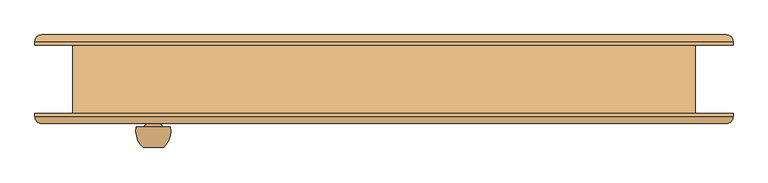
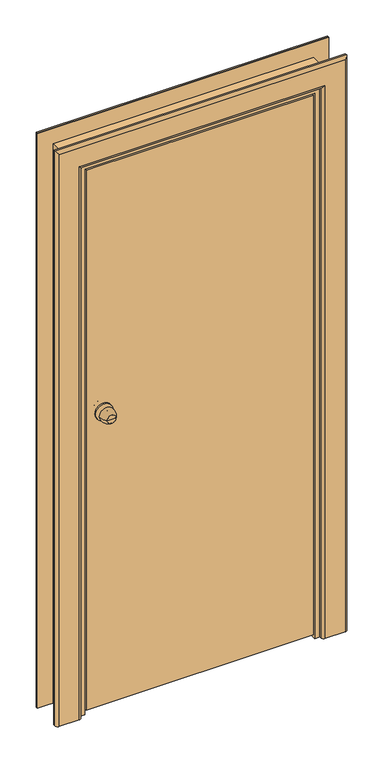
"""IFC4 building model written with IfcOpenShell, lengths in millimetres: door geometry, Внутренняя дверь 1-Навесная - 6629-88 : ДГ 21-9  ГОСТ 6629-88."""

from ifc_helpers import new_model, si_unit, point, frame, origin, place, context, project, spatial, polyline, circle_curve, ellipse_curve, trimmed, outline, extrude, faceted_brep, source, transform, mapped, element, save
from ifc_brep_helpers import plane_surface, cylinder_surface, revolved_surface, advanced_brep


def door_8e71c86a(model_context):
    return source(origin(), model_context, "Body", "SolidModel", [
        advanced_brep(
        [(-322.0, -100.0, 1100.0), (-352.0, -100.0, 1100.0), (-337.0, -100.0, 1100.0), (-312.0, -70.0, 1100.0), (-362.0, -70.0, 1100.0), (-319.0, -70.0, 1100.0), (-355.0, -70.0, 1100.0), (-327.0, -62.0, 1100.0), (-347.0, -62.0, 1100.0), (-327.0, -56.0, 1100.0), (-347.0, -56.0, 1100.0), (-367.0, -56.0, 1100.0), (-307.0, -56.0, 1100.0), (-367.0, -50.0, 1100.0), (-307.0, -50.0, 1100.0)],
        [
            (0, 1, circle_curve(frame((-337.0, -100.0, 1100.0), z_axis=(0.0, -1.0, 0.0), x_axis=(-1.0, 0.0, 0.0)), 15.0)),
            (1, 2),
            (2, 0),
            (1, 0, circle_curve(frame((-337.0, -100.0, 1100.0), z_axis=(0.0, -1.0, 0.0), x_axis=(-1.0, 0.0, 0.0)), 15.0)),
            (0, 3, circle_curve(frame((-346.6226265, -75.1257912, 1100.0), z_axis=(0.0, 0.0, 1.0), x_axis=(-1.0, 0.0, 0.0)), 35.0)),
            (3, 4, circle_curve(frame((-337.0, -70.0, 1100.0), z_axis=(0.0, -1.0, 0.0), x_axis=(-1.0, 0.0, 0.0)), 25.0)),
            (4, 1, circle_curve(frame((-327.3773735, -75.1257912, 1100.0), z_axis=(0.0, 0.0, 1.0), x_axis=(1.0, 0.0, 0.0)), 35.0)),
            (4, 3, circle_curve(frame((-337.0, -70.0, 1100.0), z_axis=(0.0, -1.0, 0.0), x_axis=(-1.0, 0.0, 0.0)), 25.0)),
            (3, 5),
            (5, 6, circle_curve(frame((-337.0, -70.0, 1100.0), z_axis=(0.0, -1.0, 0.0), x_axis=(-1.0, 0.0, 0.0)), 18.0)),
            (6, 4),
            (6, 5, circle_curve(frame((-337.0, -70.0, 1100.0), z_axis=(0.0, -1.0, 0.0), x_axis=(-1.0, 0.0, 0.0)), 18.0)),
            (5, 7, circle_curve(frame((-319.0, -62.0, 1100.0), z_axis=(0.0, 0.0, -1.0), x_axis=(-1.0, 0.0, 0.0)), 8.0)),
            (7, 8, circle_curve(frame((-337.0, -62.0, 1100.0), z_axis=(0.0, -1.0, 0.0), x_axis=(-1.0, 0.0, 0.0)), 10.0)),
            (8, 6, circle_curve(frame((-355.0, -62.0, 1100.0), z_axis=(0.0, 0.0, -1.0), x_axis=(1.0, 0.0, 0.0)), 8.0)),
            (8, 7, circle_curve(frame((-337.0, -62.0, 1100.0), z_axis=(0.0, -1.0, 0.0), x_axis=(-1.0, 0.0, 0.0)), 10.0)),
            (7, 9),
            (9, 10, circle_curve(frame((-337.0, -56.0, 1100.0), z_axis=(0.0, -1.0, 0.0), x_axis=(-1.0, 0.0, 0.0)), 10.0)),
            (10, 8),
            (10, 9, circle_curve(frame((-337.0, -56.0, 1100.0), z_axis=(0.0, -1.0, 0.0), x_axis=(-1.0, 0.0, 0.0)), 10.0)),
            (11, 12, circle_curve(frame((-337.0, -56.0, 1100.0), z_axis=(0.0, -1.0, 0.0), x_axis=(1.0, 0.0, 0.0)), 30.0)),
            (12, 11, circle_curve(frame((-337.0, -56.0, 1100.0), z_axis=(0.0, -1.0, 0.0), x_axis=(1.0, 0.0, 0.0)), 30.0)),
            (13, 14, circle_curve(frame((-337.0, -50.0, 1100.0), z_axis=(0.0, 1.0, 0.0), x_axis=(1.0, 0.0, 0.0)), 30.0)),
            (14, 13, circle_curve(frame((-337.0, -50.0, 1100.0), z_axis=(0.0, 1.0, 0.0), x_axis=(1.0, 0.0, 0.0)), 30.0)),
            (11, 13),
            (14, 12),
        ],
        [
            plane_surface(frame((-337.0, -100.0, 1100.0), z_axis=(0.0, -1.0, 0.0), x_axis=(-1.0, 0.0, 0.0))),
            revolved_surface(trimmed(ellipse_curve(frame((-327.3773735, -75.1257912, 1100.0), z_axis=(0.0, 0.0, -1.0), x_axis=(1.0, 0.0, 0.0)), 35.0, 35.0), [point((-352.0, -100.0, 1100.0))], [point((-362.0, -70.0, 1100.0))], True, "CARTESIAN"), (-337.0, -130.0, 1100.0), (0.0, 1.0, 0.0)),
            plane_surface(frame((-337.0, -70.0, 1100.0), z_axis=(0.0, 1.0, 0.0), x_axis=(-1.0, 0.0, 0.0))),
            revolved_surface(trimmed(ellipse_curve(frame((-355.0, -62.0, 1100.0), z_axis=(0.0, 0.0, 1.0), x_axis=(1.0, 0.0, 0.0)), 8.0, 8.0), [point((-355.0, -70.0, 1100.0))], [point((-347.0, -62.0, 1100.0))], True, "CARTESIAN"), (-337.0, -130.0, 1100.0), (0.0, 1.0, 0.0)),
            cylinder_surface(frame((-337.0, -130.0, 1100.0), z_axis=(0.0, 1.0, 0.0), x_axis=(-1.0, 0.0, 0.0)), 10.0),
            plane_surface(frame((-307.0, -56.0, 1100.0), z_axis=(0.0, -1.0, 0.0), x_axis=(0.0, 0.0, 1.0))),
            plane_surface(frame((-307.0, -50.0, 1100.0), z_axis=(0.0, 1.0, 0.0), x_axis=(0.0, 0.0, -1.0))),
            cylinder_surface(frame((-337.0, -50.0, 1100.0), z_axis=(0.0, -1.0, 0.0), x_axis=(1.0, 0.0, 0.0)), 30.0),
        ],
        [
            (0, [[1, 2, 3]]),
            (0, [[-2, 4, -3]]),
            (1, [[-1, 5, 6, 7]]),
            (1, [[-4, -7, 8, -5]]),
            (2, [[-6, 9, 10, 11]]),
            (2, [[-8, -11, 12, -9]]),
            (3, [[-10, 13, 14, 15]]),
            (3, [[-12, -15, 16, -13]]),
            (4, [[-14, 17, 18, 19]]),
            (4, [[-16, -19, 20, -17]]),
            (5, [[21, 22], [-18, -20]]),
            (6, [[23, 24]]),
            (7, [[-21, 25, -24, 26]]),
            (7, [[-22, -26, -23, -25]]),
        ],
    ),
        advanced_brep(
        [(-352.0, 37.0, 1100.0), (-322.0, 37.0, 1100.0), (-337.0, 37.0, 1100.0), (-362.0, 7.0, 1100.0), (-312.0, 7.0, 1100.0), (-355.0, 7.0, 1100.0), (-319.0, 7.0, 1100.0), (-347.0, -1.0, 1100.0), (-327.0, -1.0, 1100.0), (-347.0, -7.0, 1100.0), (-327.0, -7.0, 1100.0), (-307.0, -7.0, 1100.0), (-367.0, -7.0, 1100.0), (-307.0, -13.0, 1100.0), (-367.0, -13.0, 1100.0)],
        [
            (0, 1, circle_curve(frame((-337.0, 37.0, 1100.0), z_axis=(0.0, 1.0, 0.0), x_axis=(1.0, 0.0, 0.0)), 15.0)),
            (1, 2),
            (2, 0),
            (1, 0, circle_curve(frame((-337.0, 37.0, 1100.0), z_axis=(0.0, 1.0, 0.0), x_axis=(1.0, 0.0, 0.0)), 15.0)),
            (0, 3, circle_curve(frame((-327.3773735, 12.1257912, 1100.0), z_axis=(0.0, 0.0, 1.0), x_axis=(1.0, 0.0, 0.0)), 35.0)),
            (3, 4, circle_curve(frame((-337.0, 7.0, 1100.0), z_axis=(0.0, 1.0, 0.0), x_axis=(1.0, 0.0, 0.0)), 25.0)),
            (4, 1, circle_curve(frame((-346.6226265, 12.1257912, 1100.0), z_axis=(0.0, 0.0, 1.0), x_axis=(-1.0, 0.0, 0.0)), 35.0)),
            (4, 3, circle_curve(frame((-337.0, 7.0, 1100.0), z_axis=(0.0, 1.0, 0.0), x_axis=(1.0, 0.0, 0.0)), 25.0)),
            (3, 5),
            (5, 6, circle_curve(frame((-337.0, 7.0, 1100.0), z_axis=(0.0, 1.0, 0.0), x_axis=(1.0, 0.0, 0.0)), 18.0)),
            (6, 4),
            (6, 5, circle_curve(frame((-337.0, 7.0, 1100.0), z_axis=(0.0, 1.0, 0.0), x_axis=(1.0, 0.0, 0.0)), 18.0)),
            (5, 7, circle_curve(frame((-355.0, -1.0, 1100.0), z_axis=(0.0, 0.0, -1.0), x_axis=(1.0, 0.0, 0.0)), 8.0)),
            (7, 8, circle_curve(frame((-337.0, -1.0, 1100.0), z_axis=(0.0, 1.0, 0.0), x_axis=(1.0, 0.0, 0.0)), 10.0)),
            (8, 6, circle_curve(frame((-319.0, -1.0, 1100.0), z_axis=(0.0, 0.0, -1.0), x_axis=(-1.0, 0.0, 0.0)), 8.0)),
            (8, 7, circle_curve(frame((-337.0, -1.0, 1100.0), z_axis=(0.0, 1.0, 0.0), x_axis=(1.0, 0.0, 0.0)), 10.0)),
            (7, 9),
            (9, 10, circle_curve(frame((-337.0, -7.0, 1100.0), z_axis=(0.0, 1.0, 0.0), x_axis=(1.0, 0.0, 0.0)), 10.0)),
            (10, 8),
            (10, 9, circle_curve(frame((-337.0, -7.0, 1100.0), z_axis=(0.0, 1.0, 0.0), x_axis=(1.0, 0.0, 0.0)), 10.0)),
            (11, 12, circle_curve(frame((-337.0, -7.0, 1100.0), z_axis=(0.0, 1.0, 0.0), x_axis=(-1.0, 0.0, 0.0)), 30.0)),
            (12, 11, circle_curve(frame((-337.0, -7.0, 1100.0), z_axis=(0.0, 1.0, 0.0), x_axis=(-1.0, 0.0, 0.0)), 30.0)),
            (13, 14, circle_curve(frame((-337.0, -13.0, 1100.0), z_axis=(0.0, -1.0, 0.0), x_axis=(-1.0, 0.0, 0.0)), 30.0)),
            (14, 13, circle_curve(frame((-337.0, -13.0, 1100.0), z_axis=(0.0, -1.0, 0.0), x_axis=(-1.0, 0.0, 0.0)), 30.0)),
            (11, 13),
            (14, 12),
        ],
        [
            plane_surface(frame((-337.0, 37.0, 1100.0), z_axis=(0.0, 1.0, 0.0), x_axis=(1.0, 0.0, 0.0))),
            revolved_surface(trimmed(ellipse_curve(frame((-346.6226265, 12.1257912, 1100.0), z_axis=(0.0, 0.0, -1.0), x_axis=(-1.0, 0.0, 0.0)), 35.0, 35.0), [point((-322.0, 37.0, 1100.0))], [point((-312.0, 7.0, 1100.0))], True, "CARTESIAN"), (-337.0, 67.0, 1100.0), (0.0, -1.0, 0.0)),
            plane_surface(frame((-337.0, 7.0, 1100.0), z_axis=(0.0, -1.0, 0.0), x_axis=(1.0, 0.0, 0.0))),
            revolved_surface(trimmed(ellipse_curve(frame((-319.0, -1.0, 1100.0), z_axis=(0.0, 0.0, 1.0), x_axis=(-1.0, 0.0, 0.0)), 8.0, 8.0), [point((-319.0, 7.0, 1100.0))], [point((-327.0, -1.0, 1100.0))], True, "CARTESIAN"), (-337.0, 67.0, 1100.0), (0.0, -1.0, 0.0)),
            cylinder_surface(frame((-337.0, 67.0, 1100.0), z_axis=(0.0, -1.0, 0.0), x_axis=(1.0, 0.0, 0.0)), 10.0),
            plane_surface(frame((-367.0, -7.0, 1100.0), z_axis=(0.0, 1.0, 0.0), x_axis=(0.0, 0.0, 1.0))),
            plane_surface(frame((-367.0, -13.0, 1100.0), z_axis=(0.0, -1.0, 0.0), x_axis=(0.0, 0.0, -1.0))),
            cylinder_surface(frame((-337.0, -13.0, 1100.0), z_axis=(0.0, 1.0, 0.0), x_axis=(-1.0, 0.0, 0.0)), 30.0),
        ],
        [
            (0, [[1, 2, 3]]),
            (0, [[-2, 4, -3]]),
            (1, [[-1, 5, 6, 7]]),
            (1, [[-4, -7, 8, -5]]),
            (2, [[-6, 9, 10, 11]]),
            (2, [[-8, -11, 12, -9]]),
            (3, [[-10, 13, 14, 15]]),
            (3, [[-12, -15, 16, -13]]),
            (4, [[-14, 17, 18, 19]]),
            (4, [[-16, -19, 20, -17]]),
            (5, [[21, 22], [-18, -20]]),
            (6, [[23, 24]]),
            (7, [[-21, 25, -24, 26]]),
            (7, [[-22, -26, -23, -25]]),
        ],
    ),
        extrude(outline(polyline([(0.0, 420.0), (0.0, 435.0), (2050.0, 435.0), (2050.0, -435.0), (0.0, -435.0), (0.0, -420.0), (2035.0, -420.0), (2035.0, 420.0), (0.0, 420.0)])), frame((0.0, 24.0, 0.0), z_axis=(0.0, 1.0, 0.0), x_axis=(0.0, 0.0, 1.0)), (0.0, 0.0, 1.0), 26.0),
        advanced_brep(
        [(-510.0, -50.0, 0.0), (-420.0, -50.0, 0.0), (-420.0, -55.0, 0.0), (-430.0, -65.0, 0.0), (-500.0, -65.0, 0.0), (-510.0, -55.0, 0.0), (-510.0, -50.0, 2125.0), (510.0, -50.0, 2125.0), (510.0, -50.0, 0.0), (420.0, -50.0, 0.0), (420.0, -50.0, 2035.0), (-420.0, -50.0, 2035.0), (-420.0, -55.0, 2035.0), (-430.0, -65.0, 2045.0), (430.0, -65.0, 2045.0), (430.0, -65.0, 0.0), (500.0, -65.0, 0.0), (500.0, -65.0, 2115.0), (-500.0, -65.0, 2115.0), (-510.0, -55.0, 2125.0), (510.0, -55.0, 2125.0), (510.0, -55.0, 0.0), (420.0, -55.0, 0.0), (420.0, -55.0, 2035.0)],
        [
            (0, 1),
            (1, 2),
            (2, 3, circle_curve(frame((-430.0, -55.0, 0.0), z_axis=(0.0, 0.0, -1.0), x_axis=(-1.0, 0.0, 0.0)), 10.0)),
            (3, 4),
            (4, 5, circle_curve(frame((-500.0, -55.0, 0.0), z_axis=(0.0, 0.0, -1.0), x_axis=(-1.0, 0.0, 0.0)), 10.0)),
            (5, 0),
            (0, 6),
            (6, 7),
            (7, 8),
            (8, 9),
            (9, 10),
            (10, 11),
            (11, 1),
            (11, 12),
            (12, 2),
            (12, 13, ellipse_curve(frame((-430.0, -55.0, 2045.0), z_axis=(-0.7071067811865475, 0.0, -0.7071067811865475), x_axis=(0.7071067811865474, 0.0, -0.7071067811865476)), 14.1421356, 10.0)),
            (13, 3),
            (13, 14),
            (14, 15),
            (15, 16),
            (16, 17),
            (17, 18),
            (18, 4),
            (18, 19, ellipse_curve(frame((-500.0, -55.0, 2115.0), z_axis=(-0.7071067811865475, 0.0, -0.7071067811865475), x_axis=(0.7071067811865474, 0.0, -0.7071067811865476)), 14.1421356, 10.0)),
            (19, 5),
            (19, 6),
            (7, 20),
            (20, 21),
            (21, 8),
            (21, 16, circle_curve(frame((500.0, -55.0, 0.0), z_axis=(0.0, 0.0, -1.0), x_axis=(1.0, 0.0, 0.0)), 10.0)),
            (15, 22, circle_curve(frame((430.0, -55.0, 0.0), z_axis=(0.0, 0.0, -1.0), x_axis=(1.0, 0.0, 0.0)), 10.0)),
            (22, 9),
            (23, 10),
            (22, 23),
            (14, 23, ellipse_curve(frame((430.0, -55.0, 2045.0), z_axis=(0.7071067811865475, 0.0, -0.7071067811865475), x_axis=(0.7071067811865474, 0.0, 0.7071067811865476)), 14.1421356, 10.0)),
            (20, 17, ellipse_curve(frame((500.0, -55.0, 2115.0), z_axis=(0.7071067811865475, 0.0, -0.7071067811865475), x_axis=(0.7071067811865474, 0.0, 0.7071067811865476)), 14.1421356, 10.0)),
            (23, 12),
            (20, 19),
        ],
        [
            plane_surface(frame((-455.0, -50.0, 0.0), z_axis=(0.0, 0.0, -1.0), x_axis=(0.0, 1.0, 0.0))),
            plane_surface(frame((-510.0, -50.0, 0.0), z_axis=(0.0, 1.0, 0.0), x_axis=(0.0, 0.0, 1.0))),
            plane_surface(frame((-420.0, -50.0, 0.0), z_axis=(1.0, 0.0, 0.0), x_axis=(0.0, 0.0, 1.0))),
            cylinder_surface(frame((-430.0, -55.0, 0.0), z_axis=(0.0, 0.0, -1.0), x_axis=(-1.0, 0.0, 0.0)), 10.0),
            plane_surface(frame((-430.0, -65.0, 0.0), z_axis=(0.0, -1.0, 0.0), x_axis=(0.0, 0.0, 1.0))),
            cylinder_surface(frame((-500.0, -55.0, 0.0), z_axis=(0.0, 0.0, -1.0), x_axis=(-1.0, 0.0, 0.0)), 10.0),
            plane_surface(frame((-510.0, -55.0, 0.0), z_axis=(-1.0, 0.0, 0.0), x_axis=(0.0, 0.0, 1.0))),
            plane_surface(frame((510.0, -55.0, 2125.0), z_axis=(1.0, 0.0, 0.0), x_axis=(0.0, 0.0, -1.0))),
            plane_surface(frame((455.0, -50.0, 0.0), z_axis=(0.0, 0.0, -1.0), x_axis=(0.0, 1.0, 0.0))),
            plane_surface(frame((420.0, -50.0, 2035.0), z_axis=(-1.0, 0.0, 0.0), x_axis=(0.0, 0.0, -1.0))),
            cylinder_surface(frame((430.0, -55.0, 2070.0), z_axis=(0.0, 0.0, 1.0), x_axis=(1.0, 0.0, 0.0)), 10.0),
            cylinder_surface(frame((500.0, -55.0, 2070.0), z_axis=(0.0, 0.0, 1.0), x_axis=(1.0, 0.0, 0.0)), 10.0),
            plane_surface(frame((-420.0, -50.0, 2035.0), z_axis=(0.0, 0.0, -1.0), x_axis=(1.0, 0.0, 0.0))),
            cylinder_surface(frame((-455.0, -55.0, 2045.0), z_axis=(-1.0, 0.0, 0.0), x_axis=(0.0, 0.0, 1.0)), 10.0),
            cylinder_surface(frame((-455.0, -55.0, 2115.0), z_axis=(-1.0, 0.0, 0.0), x_axis=(0.0, 0.0, 1.0)), 10.0),
            plane_surface(frame((-510.0, -55.0, 2125.0), z_axis=(0.0, 0.0, 1.0), x_axis=(1.0, 0.0, 0.0))),
        ],
        [
            (0, [[1, 2, 3, 4, 5, 6]]),
            (1, [[-1, 7, 8, 9, 10, 11, 12, 13]]),
            (2, [[-2, -13, 14, 15]]),
            (3, [[-3, -15, 16, 17]]),
            (4, [[-4, -17, 18, 19, 20, 21, 22, 23]]),
            (5, [[-5, -23, 24, 25]]),
            (6, [[-6, -25, 26, -7]]),
            (7, [[27, 28, 29, -9]]),
            (8, [[-29, 30, -20, 31, 32, -10]]),
            (9, [[33, -11, -32, 34]]),
            (10, [[35, -34, -31, -19]]),
            (11, [[36, -21, -30, -28]]),
            (12, [[-14, -12, -33, 37]]),
            (13, [[-16, -37, -35, -18]]),
            (14, [[-24, -22, -36, 38]]),
            (15, [[-26, -38, -27, -8]]),
        ],
    ),
        advanced_brep(
        [(510.0, 50.0, 0.0), (420.0, 50.0, 0.0), (420.0, 55.0, 0.0), (430.0, 65.0, 0.0), (500.0, 65.0, 0.0), (510.0, 55.0, 0.0), (510.0, 50.0, 2125.0), (-510.0, 50.0, 2125.0), (-510.0, 50.0, 0.0), (-420.0, 50.0, 0.0), (-420.0, 50.0, 2035.0), (420.0, 50.0, 2035.0), (420.0, 55.0, 2035.0), (430.0, 65.0, 2045.0), (-430.0, 65.0, 2045.0), (-430.0, 65.0, 0.0), (-500.0, 65.0, 0.0), (-500.0, 65.0, 2115.0), (500.0, 65.0, 2115.0), (510.0, 55.0, 2125.0), (-510.0, 55.0, 2125.0), (-510.0, 55.0, 0.0), (-420.0, 55.0, 0.0), (-420.0, 55.0, 2035.0)],
        [
            (0, 1),
            (1, 2),
            (2, 3, circle_curve(frame((430.0, 55.0, 0.0), z_axis=(0.0, 0.0, -1.0), x_axis=(1.0, 0.0, 0.0)), 10.0)),
            (3, 4),
            (4, 5, circle_curve(frame((500.0, 55.0, 0.0), z_axis=(0.0, 0.0, -1.0), x_axis=(1.0, 0.0, 0.0)), 10.0)),
            (5, 0),
            (0, 6),
            (6, 7),
            (7, 8),
            (8, 9),
            (9, 10),
            (10, 11),
            (11, 1),
            (11, 12),
            (12, 2),
            (12, 13, ellipse_curve(frame((430.0, 55.0, 2045.0), z_axis=(0.7071067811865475, 0.0, -0.7071067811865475), x_axis=(-0.7071067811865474, 0.0, -0.7071067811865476)), 14.1421356, 10.0)),
            (13, 3),
            (13, 14),
            (14, 15),
            (15, 16),
            (16, 17),
            (17, 18),
            (18, 4),
            (18, 19, ellipse_curve(frame((500.0, 55.0, 2115.0), z_axis=(0.7071067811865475, 0.0, -0.7071067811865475), x_axis=(-0.7071067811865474, 0.0, -0.7071067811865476)), 14.1421356, 10.0)),
            (19, 5),
            (19, 6),
            (7, 20),
            (20, 21),
            (21, 8),
            (21, 16, circle_curve(frame((-500.0, 55.0, 0.0), z_axis=(0.0, 0.0, -1.0), x_axis=(-1.0, 0.0, 0.0)), 10.0)),
            (15, 22, circle_curve(frame((-430.0, 55.0, 0.0), z_axis=(0.0, 0.0, -1.0), x_axis=(-1.0, 0.0, 0.0)), 10.0)),
            (22, 9),
            (23, 10),
            (22, 23),
            (14, 23, ellipse_curve(frame((-430.0, 55.0, 2045.0), z_axis=(-0.7071067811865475, 0.0, -0.7071067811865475), x_axis=(-0.7071067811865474, 0.0, 0.7071067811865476)), 14.1421356, 10.0)),
            (20, 17, ellipse_curve(frame((-500.0, 55.0, 2115.0), z_axis=(-0.7071067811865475, 0.0, -0.7071067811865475), x_axis=(-0.7071067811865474, 0.0, 0.7071067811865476)), 14.1421356, 10.0)),
            (23, 12),
            (20, 19),
        ],
        [
            plane_surface(frame((455.0, 50.0, 0.0), z_axis=(0.0, 0.0, -1.0), x_axis=(0.0, -1.0, 0.0))),
            plane_surface(frame((510.0, 50.0, 0.0), z_axis=(0.0, -1.0, 0.0), x_axis=(0.0, 0.0, 1.0))),
            plane_surface(frame((420.0, 50.0, 0.0), z_axis=(-1.0, 0.0, 0.0), x_axis=(0.0, 0.0, 1.0))),
            cylinder_surface(frame((430.0, 55.0, 0.0), z_axis=(0.0, 0.0, -1.0), x_axis=(1.0, 0.0, 0.0)), 10.0),
            plane_surface(frame((430.0, 65.0, 0.0), z_axis=(0.0, 1.0, 0.0), x_axis=(0.0, 0.0, 1.0))),
            cylinder_surface(frame((500.0, 55.0, 0.0), z_axis=(0.0, 0.0, -1.0), x_axis=(1.0, 0.0, 0.0)), 10.0),
            plane_surface(frame((510.0, 55.0, 0.0), z_axis=(1.0, 0.0, 0.0), x_axis=(0.0, 0.0, 1.0))),
            plane_surface(frame((-510.0, 55.0, 2125.0), z_axis=(-1.0, 0.0, 0.0), x_axis=(0.0, 0.0, -1.0))),
            plane_surface(frame((-455.0, 50.0, 0.0), z_axis=(0.0, 0.0, -1.0), x_axis=(0.0, -1.0, 0.0))),
            plane_surface(frame((-420.0, 50.0, 2035.0), z_axis=(1.0, 0.0, 0.0), x_axis=(0.0, 0.0, -1.0))),
            cylinder_surface(frame((-430.0, 55.0, 2070.0), z_axis=(0.0, 0.0, 1.0), x_axis=(-1.0, 0.0, 0.0)), 10.0),
            cylinder_surface(frame((-500.0, 55.0, 2070.0), z_axis=(0.0, 0.0, 1.0), x_axis=(-1.0, 0.0, 0.0)), 10.0),
            plane_surface(frame((420.0, 50.0, 2035.0), z_axis=(0.0, 0.0, -1.0), x_axis=(-1.0, 0.0, 0.0))),
            cylinder_surface(frame((455.0, 55.0, 2045.0), z_axis=(1.0, 0.0, 0.0), x_axis=(0.0, 0.0, 1.0)), 10.0),
            cylinder_surface(frame((455.0, 55.0, 2115.0), z_axis=(1.0, 0.0, 0.0), x_axis=(0.0, 0.0, 1.0)), 10.0),
            plane_surface(frame((510.0, 55.0, 2125.0), z_axis=(0.0, 0.0, 1.0), x_axis=(-1.0, 0.0, 0.0))),
        ],
        [
            (0, [[1, 2, 3, 4, 5, 6]]),
            (1, [[-1, 7, 8, 9, 10, 11, 12, 13]]),
            (2, [[-2, -13, 14, 15]]),
            (3, [[-3, -15, 16, 17]]),
            (4, [[-4, -17, 18, 19, 20, 21, 22, 23]]),
            (5, [[-5, -23, 24, 25]]),
            (6, [[-6, -25, 26, -7]]),
            (7, [[27, 28, 29, -9]]),
            (8, [[-29, 30, -20, 31, 32, -10]]),
            (9, [[33, -11, -32, 34]]),
            (10, [[35, -34, -31, -19]]),
            (11, [[36, -21, -30, -28]]),
            (12, [[-14, -12, -33, 37]]),
            (13, [[-16, -37, -35, -18]]),
            (14, [[-24, -22, -36, 38]]),
            (15, [[-26, -38, -27, -8]]),
        ],
    ),
        faceted_brep([(390.0, 24.0, 0.0), (435.0, 24.0, 0.0), (435.0, -50.0, 0.0), (402.0, -50.0, 0.0), (402.0, -8.0, 0.0), (390.0, -8.0, 0.0), (390.0, 24.0, 2005.0), (-390.0, 24.0, 2005.0), (-390.0, 24.0, 0.0), (-435.0, 24.0, 0.0), (-435.0, 24.0, 2050.0), (435.0, 24.0, 2050.0), (435.0, -50.0, 2050.0), (-435.0, -50.0, 2050.0), (-435.0, -50.0, 0.0), (-402.0, -50.0, 0.0), (-402.0, -50.0, 2017.0), (402.0, -50.0, 2017.0), (402.0, -8.0, 2017.0), (-402.0, -8.0, 2017.0), (-402.0, -8.0, 0.0), (-390.0, -8.0, 0.0), (-390.0, -8.0, 2005.0), (390.0, -8.0, 2005.0)], [[[0, 1, 2, 3, 4, 5]], [[1, 0, 6, 7, 8, 9, 10, 11]], [[2, 1, 11, 12]], [[3, 2, 12, 13, 14, 15, 16, 17]], [[4, 3, 17, 18]], [[5, 4, 18, 19, 20, 21, 22, 23]], [[0, 5, 23, 6]], [[7, 22, 21, 8]], [[8, 21, 20, 15, 14, 9]], [[13, 10, 9, 14]], [[19, 16, 15, 20]], [[12, 11, 10, 13]], [[18, 17, 16, 19]], [[6, 23, 22, 7]]]),
        extrude(outline(polyline([(0.0, 435.0), (0.0, 455.0), (2070.0, 455.0), (2070.0, -455.0), (0.0, -455.0), (0.0, -435.0), (2050.0, -435.0), (2050.0, 435.0), (0.0, 435.0)])), frame((0.0, -50.0, 0.0), z_axis=(0.0, 1.0, 0.0), x_axis=(0.0, 0.0, 1.0)), (0.0, 0.0, 1.0), 100.0),
        extrude(outline(polyline([(397.0, -13.0), (397.0, -50.0), (-397.0, -50.0), (-397.0, -13.0), (397.0, -13.0)])), frame((0.0, 0.0, 15.0), z_axis=(0.0, 0.0, 1.0), x_axis=(1.0, 0.0, 0.0)), (0.0, 0.0, 1.0), 1997.0),
    ])


if __name__ == "__main__":
    model = new_model("IFC4")
    model_context = context("Model", 3, world=origin())
    ifc_project = project(units=[si_unit("LENGTHUNIT", "METRE", prefix="MILLI")], contexts=[model_context])
    site = spatial("IfcSite", under=ifc_project)
    building = spatial("IfcBuilding", under=site)
    placement = place(None, origin())
    door_shape = door_8e71c86a(model_context)
    element("IfcDoor", 1, ObjectType="Внутренняя дверь 1-Навесная - 6629-88 : ДГ 21-9  ГОСТ 6629-88", at=placement, inside=building, context=model_context, shape_type="MappedRepresentation", body=[
        mapped(door_shape, transform((0.0, 0.0, 0.0), x_axis=(1.0, 0.0, 0.0), y_axis=(0.0, 1.0, 0.0), z_axis=(0.0, 0.0, 1.0))),
    ])
    save(model, "model.ifc")
